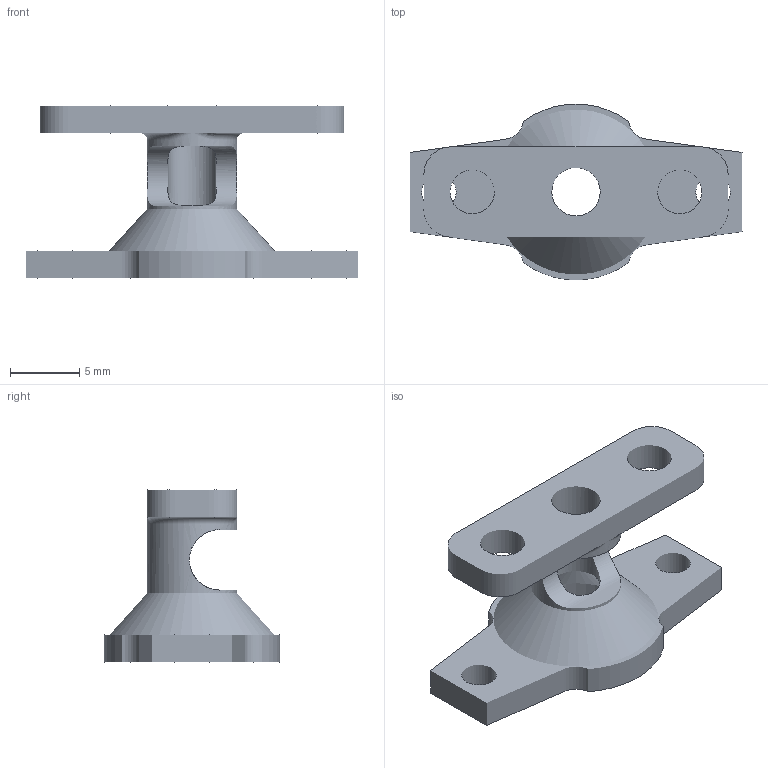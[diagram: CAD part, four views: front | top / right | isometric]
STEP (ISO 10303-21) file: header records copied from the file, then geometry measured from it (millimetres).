
FILE_DESCRIPTION(/* description */ ('STEP AP242 Edition 2','CAx-IF Rec.Pracs.---Representation and Presentation of Product Manufacturing Information (PMI)---4.0---2014-10-13','CAx-IF Rec.Pracs.---3D Tessellated Geometry---0.4---2014-09-14','2;1','CAx-IF Rec.Pracs.---User Defined Attributes---1.5---2016-08-15'),/* implementation_level */ '2;1');
FILE_NAME(/* name */ 'Main - Palmwristservothing',/* time_stamp */ '2026-06-25T16:15:30Z',/* author */ (''),/* organization */ (''),/* preprocessor_version */ 'ST-DEVELOPER v20',/* originating_system */ 'ONSHAPE BY PTC INC, 1.216',/* authorisation */ ' ');
FILE_SCHEMA (('AP242_MANAGED_MODEL_BASED_3D_ENGINEERING_MIM_LF { 1 0 10303 442 3 1 4 }'));
Length unit declared in the file: metre
Products named in the file (1): Palmwristservothing
Bounding box: 24 x 12.71 x 12.5 mm (x, y, z)
Surface area: 1136.4 mm2 (no closed solid volume)
Topology: 0 solids, 1 shells, 1 faces, 0 edges, 0 vertices
Faces by surface type: other 1
Entity records: 38 total; most frequent: STYLED_ITEM 2, PRESENTATION_STYLE_ASSIGNMENT 2, SURFACE_STYLE_USAGE 2, SURFACE_SIDE_STYLE 2, SURFACE_STYLE_FILL_AREA 2, FILL_AREA_STYLE 2, FILL_AREA_STYLE_COLOUR 2, DIRECTION 2
